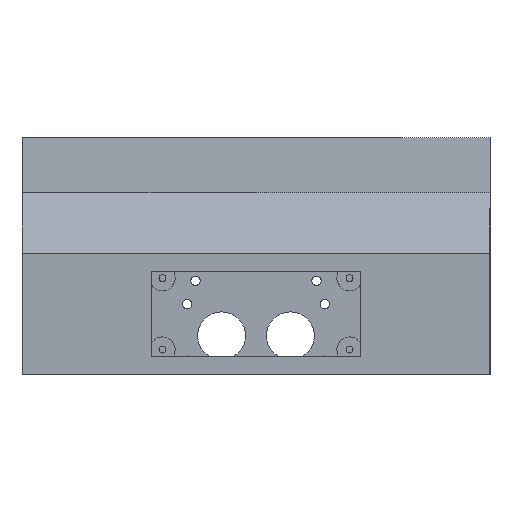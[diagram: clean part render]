
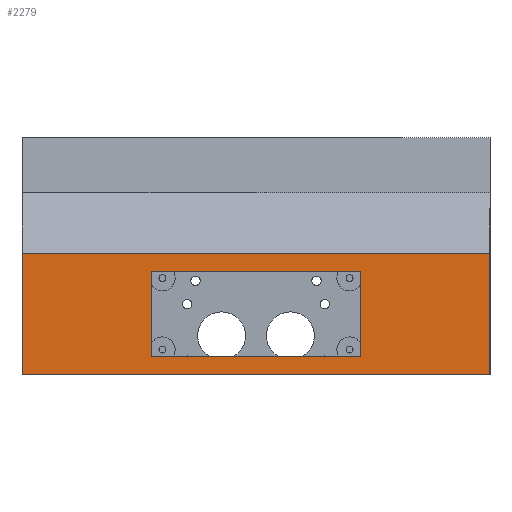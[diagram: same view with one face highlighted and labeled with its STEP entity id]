
A CAD part, left-side view. The second image highlights one B-rep face of the part: STEP entity #2279.
In plain terms, the highlighted planar face has unit normal (-1, 0, 0).
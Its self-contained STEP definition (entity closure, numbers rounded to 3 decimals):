
#22 = VERTEX_POINT('',#23);
#23 = CARTESIAN_POINT('',(-130.,-85.,34.));
#32 = PLANE('',#33);
#33 = AXIS2_PLACEMENT_3D('',#34,#35,#36);
#34 = CARTESIAN_POINT('',(-130.,-85.,34.));
#35 = DIRECTION('',(0.,0.,-1.));
#36 = DIRECTION('',(1.,0.,0.));
#44 = PLANE('',#45);
#45 = AXIS2_PLACEMENT_3D('',#46,#47,#48);
#46 = CARTESIAN_POINT('',(2.199,-85.,72.388));
#47 = DIRECTION('',(-0.,-1.,-0.));
#48 = DIRECTION('',(0.,0.,-1.));
#56 = EDGE_CURVE('',#22,#57,#59,.T.);
#57 = VERTEX_POINT('',#58);
#58 = CARTESIAN_POINT('',(-130.,85.,34.));
#59 = SURFACE_CURVE('',#60,(#64,#71),.PCURVE_S1.);
#60 = LINE('',#61,#62);
#61 = CARTESIAN_POINT('',(-130.,-85.,34.));
#62 = VECTOR('',#63,1.);
#63 = DIRECTION('',(0.,1.,0.));
#64 = PCURVE('',#32,#65);
#65 = DEFINITIONAL_REPRESENTATION('',(#66),#70);
#66 = LINE('',#67,#68);
#67 = CARTESIAN_POINT('',(0.,0.));
#68 = VECTOR('',#69,1.);
#69 = DIRECTION('',(0.,-1.));
#70 = ( GEOMETRIC_REPRESENTATION_CONTEXT(2) 
PARAMETRIC_REPRESENTATION_CONTEXT() REPRESENTATION_CONTEXT('2D SPACE',''
  ) );
#71 = PCURVE('',#72,#77);
#72 = PLANE('',#73);
#73 = AXIS2_PLACEMENT_3D('',#74,#75,#76);
#74 = CARTESIAN_POINT('',(-130.,-85.,78.));
#75 = DIRECTION('',(-1.,0.,0.));
#76 = DIRECTION('',(0.,0.,-1.));
#77 = DEFINITIONAL_REPRESENTATION('',(#78),#82);
#78 = LINE('',#79,#80);
#79 = CARTESIAN_POINT('',(44.,0.));
#80 = VECTOR('',#81,1.);
#81 = DIRECTION('',(0.,-1.));
#82 = ( GEOMETRIC_REPRESENTATION_CONTEXT(2) 
PARAMETRIC_REPRESENTATION_CONTEXT() REPRESENTATION_CONTEXT('2D SPACE',''
  ) );
#100 = PLANE('',#101);
#101 = AXIS2_PLACEMENT_3D('',#102,#103,#104);
#102 = CARTESIAN_POINT('',(2.199,85.,72.388));
#103 = DIRECTION('',(-0.,-1.,-0.));
#104 = DIRECTION('',(0.,0.,-1.));
#246 = VERTEX_POINT('',#247);
#247 = CARTESIAN_POINT('',(-130.,-85.,78.));
#261 = PLANE('',#262);
#262 = AXIS2_PLACEMENT_3D('',#263,#264,#265);
#263 = CARTESIAN_POINT('',(-110.,-85.,100.));
#264 = DIRECTION('',(-0.74,0.,0.673));
#265 = DIRECTION('',(-0.673,0.,-0.74));
#273 = EDGE_CURVE('',#246,#22,#274,.T.);
#274 = SURFACE_CURVE('',#275,(#279,#286),.PCURVE_S1.);
#275 = LINE('',#276,#277);
#276 = CARTESIAN_POINT('',(-130.,-85.,78.));
#277 = VECTOR('',#278,1.);
#278 = DIRECTION('',(0.,0.,-1.));
#279 = PCURVE('',#44,#280);
#280 = DEFINITIONAL_REPRESENTATION('',(#281),#285);
#281 = LINE('',#282,#283);
#282 = CARTESIAN_POINT('',(-5.612,-132.199));
#283 = VECTOR('',#284,1.);
#284 = DIRECTION('',(1.,0.));
#285 = ( GEOMETRIC_REPRESENTATION_CONTEXT(2) 
PARAMETRIC_REPRESENTATION_CONTEXT() REPRESENTATION_CONTEXT('2D SPACE',''
  ) );
#286 = PCURVE('',#72,#287);
#287 = DEFINITIONAL_REPRESENTATION('',(#288),#292);
#288 = LINE('',#289,#290);
#289 = CARTESIAN_POINT('',(0.,-0.));
#290 = VECTOR('',#291,1.);
#291 = DIRECTION('',(1.,0.));
#292 = ( GEOMETRIC_REPRESENTATION_CONTEXT(2) 
PARAMETRIC_REPRESENTATION_CONTEXT() REPRESENTATION_CONTEXT('2D SPACE',''
  ) );
#1151 = PLANE('',#1152);
#1152 = AXIS2_PLACEMENT_3D('',#1153,#1154,#1155);
#1153 = CARTESIAN_POINT('',(-134.,-38.,71.5));
#1154 = DIRECTION('',(0.,0.,1.));
#1155 = DIRECTION('',(1.,0.,-0.));
#1177 = PLANE('',#1178);
#1178 = AXIS2_PLACEMENT_3D('',#1179,#1180,#1181);
#1179 = CARTESIAN_POINT('',(-134.,-38.,40.5));
#1180 = DIRECTION('',(-0.,1.,0.));
#1181 = DIRECTION('',(0.,0.,1.));
#1311 = PLANE('',#1312);
#1312 = AXIS2_PLACEMENT_3D('',#1313,#1314,#1315);
#1313 = CARTESIAN_POINT('',(-134.,-38.,40.5));
#1314 = DIRECTION('',(0.,0.,1.));
#1315 = DIRECTION('',(1.,0.,-0.));
#1496 = PLANE('',#1497);
#1497 = AXIS2_PLACEMENT_3D('',#1498,#1499,#1500);
#1498 = CARTESIAN_POINT('',(-134.,38.,40.5));
#1499 = DIRECTION('',(-0.,1.,0.));
#1500 = DIRECTION('',(0.,0.,1.));
#1912 = VERTEX_POINT('',#1913);
#1913 = CARTESIAN_POINT('',(-130.,85.,78.));
#1934 = EDGE_CURVE('',#1912,#57,#1935,.T.);
#1935 = SURFACE_CURVE('',#1936,(#1940,#1947),.PCURVE_S1.);
#1936 = LINE('',#1937,#1938);
#1937 = CARTESIAN_POINT('',(-130.,85.,78.));
#1938 = VECTOR('',#1939,1.);
#1939 = DIRECTION('',(0.,0.,-1.));
#1940 = PCURVE('',#100,#1941);
#1941 = DEFINITIONAL_REPRESENTATION('',(#1942),#1946);
#1942 = LINE('',#1943,#1944);
#1943 = CARTESIAN_POINT('',(-5.612,-132.199));
#1944 = VECTOR('',#1945,1.);
#1945 = DIRECTION('',(1.,0.));
#1946 = ( GEOMETRIC_REPRESENTATION_CONTEXT(2) 
PARAMETRIC_REPRESENTATION_CONTEXT() REPRESENTATION_CONTEXT('2D SPACE',''
  ) );
#1947 = PCURVE('',#72,#1948);
#1948 = DEFINITIONAL_REPRESENTATION('',(#1949),#1953);
#1949 = LINE('',#1950,#1951);
#1950 = CARTESIAN_POINT('',(0.,-170.));
#1951 = VECTOR('',#1952,1.);
#1952 = DIRECTION('',(1.,0.));
#1953 = ( GEOMETRIC_REPRESENTATION_CONTEXT(2) 
PARAMETRIC_REPRESENTATION_CONTEXT() REPRESENTATION_CONTEXT('2D SPACE',''
  ) );
#2279 = ADVANCED_FACE('',(#2280,#2306),#72,.T.);
#2280 = FACE_BOUND('',#2281,.T.);
#2281 = EDGE_LOOP('',(#2282,#2303,#2304,#2305));
#2282 = ORIENTED_EDGE('',*,*,#2283,.T.);
#2283 = EDGE_CURVE('',#246,#1912,#2284,.T.);
#2284 = SURFACE_CURVE('',#2285,(#2289,#2296),.PCURVE_S1.);
#2285 = LINE('',#2286,#2287);
#2286 = CARTESIAN_POINT('',(-130.,-85.,78.));
#2287 = VECTOR('',#2288,1.);
#2288 = DIRECTION('',(0.,1.,0.));
#2289 = PCURVE('',#72,#2290);
#2290 = DEFINITIONAL_REPRESENTATION('',(#2291),#2295);
#2291 = LINE('',#2292,#2293);
#2292 = CARTESIAN_POINT('',(0.,-0.));
#2293 = VECTOR('',#2294,1.);
#2294 = DIRECTION('',(0.,-1.));
#2295 = ( GEOMETRIC_REPRESENTATION_CONTEXT(2) 
PARAMETRIC_REPRESENTATION_CONTEXT() REPRESENTATION_CONTEXT('2D SPACE',''
  ) );
#2296 = PCURVE('',#261,#2297);
#2297 = DEFINITIONAL_REPRESENTATION('',(#2298),#2302);
#2298 = LINE('',#2299,#2300);
#2299 = CARTESIAN_POINT('',(29.732,0.));
#2300 = VECTOR('',#2301,1.);
#2301 = DIRECTION('',(0.,-1.));
#2302 = ( GEOMETRIC_REPRESENTATION_CONTEXT(2) 
PARAMETRIC_REPRESENTATION_CONTEXT() REPRESENTATION_CONTEXT('2D SPACE',''
  ) );
#2303 = ORIENTED_EDGE('',*,*,#1934,.T.);
#2304 = ORIENTED_EDGE('',*,*,#56,.F.);
#2305 = ORIENTED_EDGE('',*,*,#273,.F.);
#2306 = FACE_BOUND('',#2307,.T.);
#2307 = EDGE_LOOP('',(#2308,#2332,#2354,#2376));
#2308 = ORIENTED_EDGE('',*,*,#2309,.F.);
#2309 = EDGE_CURVE('',#2310,#2312,#2314,.T.);
#2310 = VERTEX_POINT('',#2311);
#2311 = CARTESIAN_POINT('',(-130.,-38.,71.5));
#2312 = VERTEX_POINT('',#2313);
#2313 = CARTESIAN_POINT('',(-130.,38.,71.5));
#2314 = SURFACE_CURVE('',#2315,(#2319,#2326),.PCURVE_S1.);
#2315 = LINE('',#2316,#2317);
#2316 = CARTESIAN_POINT('',(-130.,-61.5,71.5));
#2317 = VECTOR('',#2318,1.);
#2318 = DIRECTION('',(0.,1.,-0.));
#2319 = PCURVE('',#72,#2320);
#2320 = DEFINITIONAL_REPRESENTATION('',(#2321),#2325);
#2321 = LINE('',#2322,#2323);
#2322 = CARTESIAN_POINT('',(6.5,-23.5));
#2323 = VECTOR('',#2324,1.);
#2324 = DIRECTION('',(0.,-1.));
#2325 = ( GEOMETRIC_REPRESENTATION_CONTEXT(2) 
PARAMETRIC_REPRESENTATION_CONTEXT() REPRESENTATION_CONTEXT('2D SPACE',''
  ) );
#2326 = PCURVE('',#1151,#2327);
#2327 = DEFINITIONAL_REPRESENTATION('',(#2328),#2331);
#2328 = B_SPLINE_CURVE_WITH_KNOTS('',1,(#2329,#2330),.UNSPECIFIED.,.F.,
  .F.,(2,2),(23.5,99.5),.PIECEWISE_BEZIER_KNOTS.);
#2329 = CARTESIAN_POINT('',(4.,0.));
#2330 = CARTESIAN_POINT('',(4.,76.));
#2331 = ( GEOMETRIC_REPRESENTATION_CONTEXT(2) 
PARAMETRIC_REPRESENTATION_CONTEXT() REPRESENTATION_CONTEXT('2D SPACE',''
  ) );
#2332 = ORIENTED_EDGE('',*,*,#2333,.T.);
#2333 = EDGE_CURVE('',#2310,#2334,#2336,.T.);
#2334 = VERTEX_POINT('',#2335);
#2335 = CARTESIAN_POINT('',(-130.,-38.,40.5));
#2336 = SURFACE_CURVE('',#2337,(#2341,#2348),.PCURVE_S1.);
#2337 = LINE('',#2338,#2339);
#2338 = CARTESIAN_POINT('',(-130.,-38.,59.25));
#2339 = VECTOR('',#2340,1.);
#2340 = DIRECTION('',(0.,0.,-1.));
#2341 = PCURVE('',#72,#2342);
#2342 = DEFINITIONAL_REPRESENTATION('',(#2343),#2347);
#2343 = LINE('',#2344,#2345);
#2344 = CARTESIAN_POINT('',(18.75,-47.));
#2345 = VECTOR('',#2346,1.);
#2346 = DIRECTION('',(1.,0.));
#2347 = ( GEOMETRIC_REPRESENTATION_CONTEXT(2) 
PARAMETRIC_REPRESENTATION_CONTEXT() REPRESENTATION_CONTEXT('2D SPACE',''
  ) );
#2348 = PCURVE('',#1177,#2349);
#2349 = DEFINITIONAL_REPRESENTATION('',(#2350),#2353);
#2350 = B_SPLINE_CURVE_WITH_KNOTS('',1,(#2351,#2352),.UNSPECIFIED.,.F.,
  .F.,(2,2),(-12.25,18.75),.PIECEWISE_BEZIER_KNOTS.);
#2351 = CARTESIAN_POINT('',(31.,4.));
#2352 = CARTESIAN_POINT('',(0.,4.));
#2353 = ( GEOMETRIC_REPRESENTATION_CONTEXT(2) 
PARAMETRIC_REPRESENTATION_CONTEXT() REPRESENTATION_CONTEXT('2D SPACE',''
  ) );
#2354 = ORIENTED_EDGE('',*,*,#2355,.T.);
#2355 = EDGE_CURVE('',#2334,#2356,#2358,.T.);
#2356 = VERTEX_POINT('',#2357);
#2357 = CARTESIAN_POINT('',(-130.,38.,40.5));
#2358 = SURFACE_CURVE('',#2359,(#2363,#2370),.PCURVE_S1.);
#2359 = LINE('',#2360,#2361);
#2360 = CARTESIAN_POINT('',(-130.,-61.5,40.5));
#2361 = VECTOR('',#2362,1.);
#2362 = DIRECTION('',(0.,1.,-0.));
#2363 = PCURVE('',#72,#2364);
#2364 = DEFINITIONAL_REPRESENTATION('',(#2365),#2369);
#2365 = LINE('',#2366,#2367);
#2366 = CARTESIAN_POINT('',(37.5,-23.5));
#2367 = VECTOR('',#2368,1.);
#2368 = DIRECTION('',(0.,-1.));
#2369 = ( GEOMETRIC_REPRESENTATION_CONTEXT(2) 
PARAMETRIC_REPRESENTATION_CONTEXT() REPRESENTATION_CONTEXT('2D SPACE',''
  ) );
#2370 = PCURVE('',#1311,#2371);
#2371 = DEFINITIONAL_REPRESENTATION('',(#2372),#2375);
#2372 = B_SPLINE_CURVE_WITH_KNOTS('',1,(#2373,#2374),.UNSPECIFIED.,.F.,
  .F.,(2,2),(23.5,99.5),.PIECEWISE_BEZIER_KNOTS.);
#2373 = CARTESIAN_POINT('',(4.,0.));
#2374 = CARTESIAN_POINT('',(4.,76.));
#2375 = ( GEOMETRIC_REPRESENTATION_CONTEXT(2) 
PARAMETRIC_REPRESENTATION_CONTEXT() REPRESENTATION_CONTEXT('2D SPACE',''
  ) );
#2376 = ORIENTED_EDGE('',*,*,#2377,.F.);
#2377 = EDGE_CURVE('',#2312,#2356,#2378,.T.);
#2378 = SURFACE_CURVE('',#2379,(#2383,#2390),.PCURVE_S1.);
#2379 = LINE('',#2380,#2381);
#2380 = CARTESIAN_POINT('',(-130.,38.,59.25));
#2381 = VECTOR('',#2382,1.);
#2382 = DIRECTION('',(0.,0.,-1.));
#2383 = PCURVE('',#72,#2384);
#2384 = DEFINITIONAL_REPRESENTATION('',(#2385),#2389);
#2385 = LINE('',#2386,#2387);
#2386 = CARTESIAN_POINT('',(18.75,-123.));
#2387 = VECTOR('',#2388,1.);
#2388 = DIRECTION('',(1.,0.));
#2389 = ( GEOMETRIC_REPRESENTATION_CONTEXT(2) 
PARAMETRIC_REPRESENTATION_CONTEXT() REPRESENTATION_CONTEXT('2D SPACE',''
  ) );
#2390 = PCURVE('',#1496,#2391);
#2391 = DEFINITIONAL_REPRESENTATION('',(#2392),#2395);
#2392 = B_SPLINE_CURVE_WITH_KNOTS('',1,(#2393,#2394),.UNSPECIFIED.,.F.,
  .F.,(2,2),(-12.25,18.75),.PIECEWISE_BEZIER_KNOTS.);
#2393 = CARTESIAN_POINT('',(31.,4.));
#2394 = CARTESIAN_POINT('',(0.,4.));
#2395 = ( GEOMETRIC_REPRESENTATION_CONTEXT(2) 
PARAMETRIC_REPRESENTATION_CONTEXT() REPRESENTATION_CONTEXT('2D SPACE',''
  ) );
